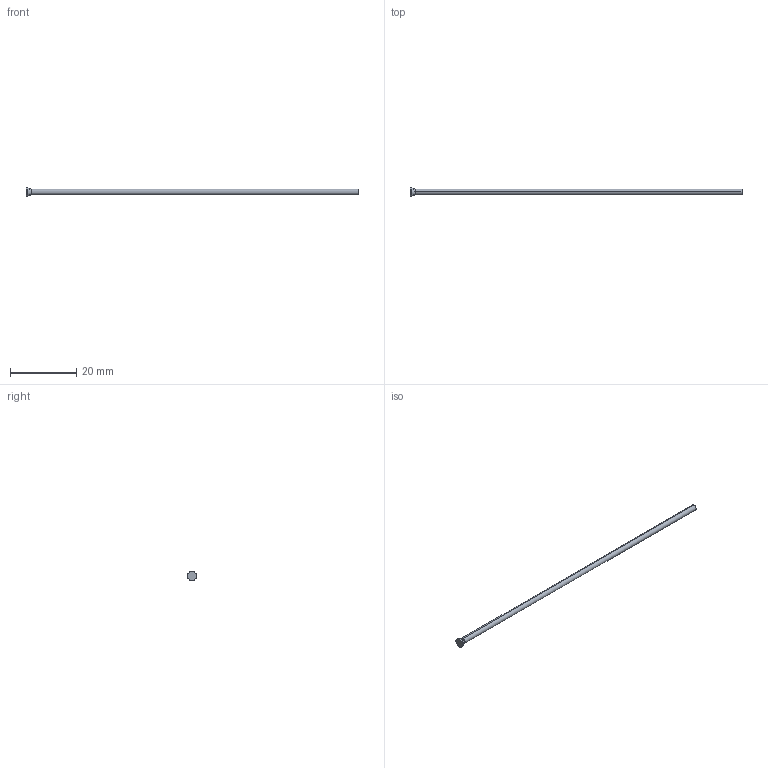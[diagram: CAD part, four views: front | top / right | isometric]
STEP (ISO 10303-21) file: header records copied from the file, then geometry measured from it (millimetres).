
FILE_DESCRIPTION (( 'STEP AP214' ), '1' );
FILE_NAME ('D-1,75x100.STEP', '2020-06-08T09:47:48', ( 'August' ), ( '' ), 'SwSTEP 2.0', 'SolidWorks 2018', '' );
FILE_SCHEMA (( 'AUTOMOTIVE_DESIGN' ));
Length unit declared in the file: millimetre
Products named in the file (1): D-1,75x100
Bounding box: 100 x 2.8 x 2.8 mm (x, y, z)
Volume: 244 mm3; surface area: 562.5 mm2
Topology: 1 solids, 1 shells, 10 faces, 18 edges, 10 vertices
Faces by surface type: cylinder 4, torus 2, cone 2, plane 2
Entity records: 280 total; most frequent: DIRECTION 52, CARTESIAN_POINT 39, ORIENTED_EDGE 36, AXIS2_PLACEMENT_3D 23, EDGE_CURVE 18, CIRCLE 12, VERTEX_POINT 10, EDGE_LOOP 10
